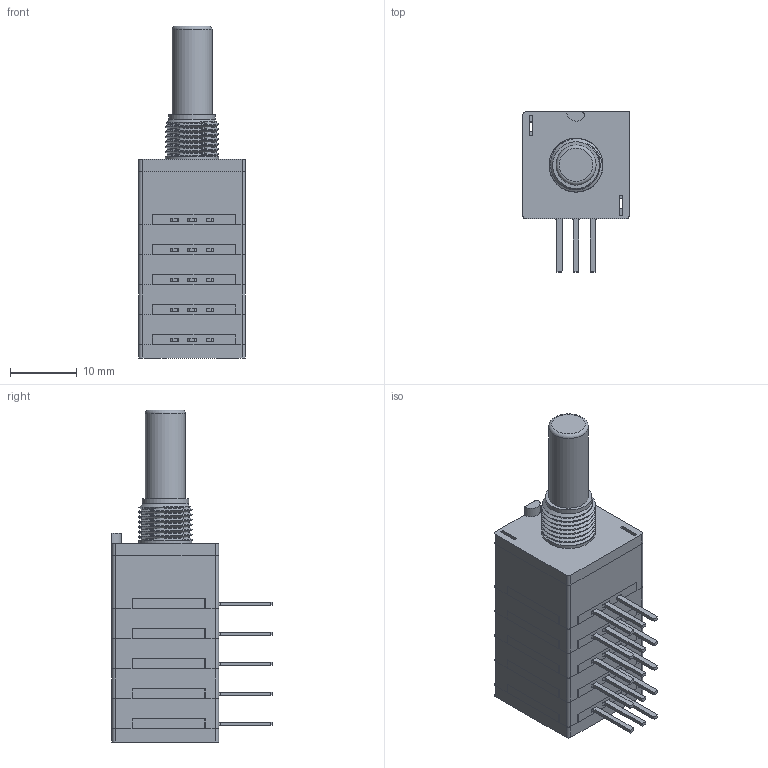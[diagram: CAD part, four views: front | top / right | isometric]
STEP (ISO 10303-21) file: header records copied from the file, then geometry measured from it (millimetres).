
FILE_DESCRIPTION(('FreeCAD Model'),'2;1');
FILE_NAME('Open CASCADE Shape Model','2023-03-24T11:14:24',(''),(''), 'Open CASCADE STEP processor 7.6','FreeCAD','Unknown');
FILE_SCHEMA(('AUTOMOTIVE_DESIGN { 1 0 10303 214 1 1 1 1 }'));
Length unit declared in the file: millimetre
Products named in the file (1): Fusion022
Bounding box: 16 x 24 x 49.8 mm (x, y, z)
Volume: 8063.7 mm3; surface area: 4118 mm2
Topology: 1 solids, 8 shells, 468 faces, 1163 edges, 709 vertices
Faces by surface type: plane 347, cylinder 94, bspline 24, cone 2, torus 1
Full cylindrical faces by diameter (mm): 4.2 x5, 6 x2, 6.02 x2, 7 x1, 8 x1, 8.08 x6
Entity records: 35873 total; most frequent: CARTESIAN_POINT 11742, DIRECTION 3708, LINE 2388, VECTOR 2388, ORIENTED_EDGE 2324, PCURVE 2324, DEFINITIONAL_REPRESENTATION 2324, EDGE_CURVE 1162
